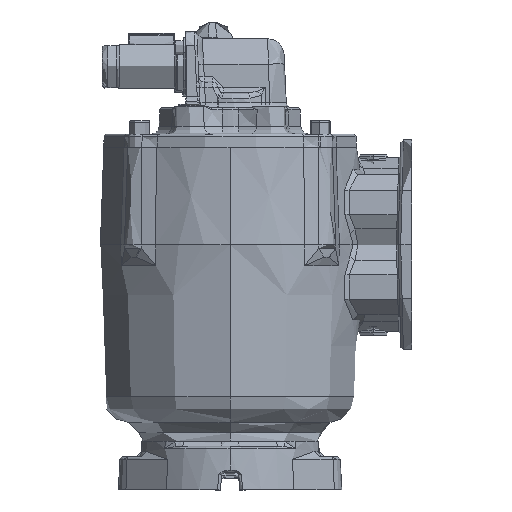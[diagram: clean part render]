
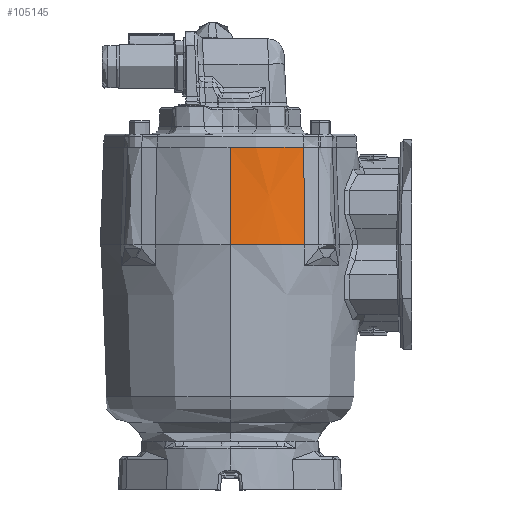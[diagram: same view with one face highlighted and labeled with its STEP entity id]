
A CAD part, left-side view. The second image highlights one B-rep face of the part: STEP entity #105145.
In plain terms, the highlighted conical face has half-angle 2 degrees and reference radius 78.232 mm.
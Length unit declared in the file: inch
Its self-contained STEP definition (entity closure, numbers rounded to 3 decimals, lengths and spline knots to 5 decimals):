
#1229 = VERTEX_POINT ( 'NONE', #11031 ) ;
#7234 = ORIENTED_EDGE ( 'NONE', *, *, #196008, .T. ) ;
#11031 = CARTESIAN_POINT ( 'NONE',  ( -4.25092, 3.3296, 2.2645 ) ) ;
#13395 = CARTESIAN_POINT ( 'NONE',  ( -3.71437, 1.61717, 2.2645 ) ) ;
#26140 = ORIENTED_EDGE ( 'NONE', *, *, #120985, .T. ) ;
#29282 = DIRECTION ( 'NONE',  ( 1., 0., 0. ) ) ;
#37494 = CARTESIAN_POINT ( 'NONE',  ( -3.76669, 1.60156, 0.77814 ) ) ;
#42836 = LINE ( 'NONE', #107371, #116613 ) ;
#49315 = CARTESIAN_POINT ( 'NONE',  ( -1.25, 3.3296, 0. ) ) ;
#51929 = CARTESIAN_POINT ( 'NONE',  ( -3.71437, 1.61717, 2.2645 ) ) ;
#54439 = VERTEX_POINT ( 'NONE', #153883 ) ;
#55796 = ORIENTED_EDGE ( 'NONE', *, *, #158147, .T. ) ;
#61803 = CARTESIAN_POINT ( 'NONE',  ( -1.25, 3.3296, 2.2645 ) ) ;
#64698 = DIRECTION ( 'NONE',  ( -1., 0., 0. ) ) ;
#78455 = DIRECTION ( 'NONE',  ( 0., 0., -1. ) ) ;
#81565 = CARTESIAN_POINT ( 'NONE',  ( -3.79389, 1.59322, 0. ) ) ;
#84302 = B_SPLINE_CURVE_WITH_KNOTS ( 'NONE', 3,
 ( #131798, #37494, #194254, #51929 ),
 .UNSPECIFIED., .F., .F.,
 ( 4, 4 ),
 ( 0., 1. ),
 .UNSPECIFIED. ) ;
#84494 = AXIS2_PLACEMENT_3D ( 'NONE', #49315, #173265, #64698 ) ;
#104818 = CIRCLE ( 'NONE', #111431, 3.00092 ) ;
#105145 = ADVANCED_FACE ( 'NONE', ( #180043 ), #166261, .T. ) ;
#107206 = CARTESIAN_POINT ( 'NONE',  ( -1.25, 3.3296, 0. ) ) ;
#107371 = CARTESIAN_POINT ( 'NONE',  ( -4.33, 3.3296, 0. ) ) ;
#110953 = DIRECTION ( 'NONE',  ( -1., 0., 0. ) ) ;
#111431 = AXIS2_PLACEMENT_3D ( 'NONE', #61803, #157025, #110953 ) ;
#116613 = VECTOR ( 'NONE', #169837, 39.37008 ) ;
#120985 = EDGE_CURVE ( 'NONE', #162914, #1229, #104818, .T. ) ;
#131798 = CARTESIAN_POINT ( 'NONE',  ( -3.79389, 1.59322, 0. ) ) ;
#143371 = EDGE_LOOP ( 'NONE', ( #26140, #55796, #143782, #7234 ) ) ;
#143782 = ORIENTED_EDGE ( 'NONE', *, *, #199500, .F. ) ;
#148331 = VERTEX_POINT ( 'NONE', #81565 ) ;
#153883 = CARTESIAN_POINT ( 'NONE',  ( -4.33, 3.3296, 0. ) ) ;
#157025 = DIRECTION ( 'NONE',  ( 0., 0., -1. ) ) ;
#158147 = EDGE_CURVE ( 'NONE', #1229, #54439, #42836, .T. ) ;
#162914 = VERTEX_POINT ( 'NONE', #13395 ) ;
#166261 = CONICAL_SURFACE ( 'NONE', #84494, 3.08, 0.035 ) ;
#169837 = DIRECTION ( 'NONE',  ( -0.035, 0., -0.999 ) ) ;
#171805 = CIRCLE ( 'NONE', #197985, 3.08 ) ;
#173265 = DIRECTION ( 'NONE',  ( 0., 0., -1. ) ) ;
#180043 = FACE_OUTER_BOUND ( 'NONE', #143371, .T. ) ;
#194254 = CARTESIAN_POINT ( 'NONE',  ( -3.74018, 1.60955, 1.53298 ) ) ;
#196008 = EDGE_CURVE ( 'NONE', #148331, #162914, #84302, .T. ) ;
#197985 = AXIS2_PLACEMENT_3D ( 'NONE', #107206, #78455, #29282 ) ;
#199500 = EDGE_CURVE ( 'NONE', #148331, #54439, #171805, .T. ) ;
